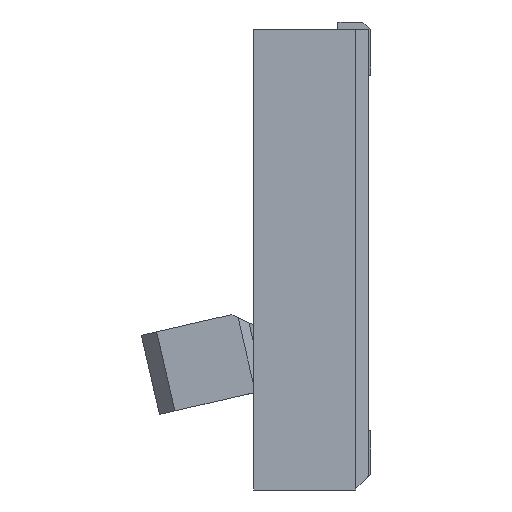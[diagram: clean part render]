
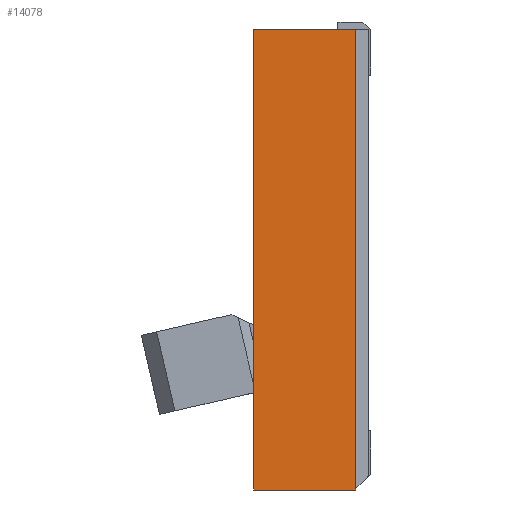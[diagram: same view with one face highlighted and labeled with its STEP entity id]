
A CAD part, left-side view. The second image highlights one B-rep face of the part: STEP entity #14078.
In plain terms, the highlighted planar face has unit normal (-1, 0, 0).
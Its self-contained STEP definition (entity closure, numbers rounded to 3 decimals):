
#51=DIRECTION('',(0.,-1.,0.));
#52=VECTOR('',#51,0.655);
#53=CARTESIAN_POINT('',(-3.,0.735,-1.475));
#54=LINE('',#53,#52);
#2291=DIRECTION('',(0.,-1.,0.));
#2292=VECTOR('',#2291,0.655);
#2293=CARTESIAN_POINT('',(-3.,0.735,1.475));
#2294=LINE('',#2293,#2292);
#3844=DIRECTION('',(0.,0.,1.));
#3845=VECTOR('',#3844,2.95);
#3846=CARTESIAN_POINT('',(-3.,0.735,-1.475));
#3847=LINE('',#3846,#3845);
#3852=DIRECTION('',(0.,0.,1.));
#3853=VECTOR('',#3852,2.95);
#3854=CARTESIAN_POINT('',(-3.,0.08,-1.475));
#3855=LINE('',#3854,#3853);
#7809=CARTESIAN_POINT('',(-3.,0.735,-1.475));
#7810=CARTESIAN_POINT('',(-3.,0.08,-1.475));
#7811=VERTEX_POINT('',#7809);
#7812=VERTEX_POINT('',#7810);
#7817=CARTESIAN_POINT('',(-3.,0.735,1.475));
#7818=CARTESIAN_POINT('',(-3.,0.08,1.475));
#7819=VERTEX_POINT('',#7817);
#7820=VERTEX_POINT('',#7818);
#14066=CARTESIAN_POINT('',(-3.,0.735,-1.475));
#14067=DIRECTION('',(-1.,0.,0.));
#14068=DIRECTION('',(0.,-1.,0.));
#14069=AXIS2_PLACEMENT_3D('',#14066,#14067,#14068);
#14070=PLANE('',#14069);
#14071=ORIENTED_EDGE('',*,*,#10345,.F.);
#14072=ORIENTED_EDGE('',*,*,#14015,.T.);
#14073=ORIENTED_EDGE('',*,*,#12383,.T.);
#14075=ORIENTED_EDGE('',*,*,#14074,.F.);
#14076=EDGE_LOOP('',(#14071,#14072,#14073,#14075));
#14077=FACE_OUTER_BOUND('',#14076,.F.);
#14078=ADVANCED_FACE('',(#14077),#14070,.T.);
#10345=EDGE_CURVE('',#7811,#7812,#54,.T.);
#12383=EDGE_CURVE('',#7819,#7820,#2294,.T.);
#14015=EDGE_CURVE('',#7811,#7819,#3847,.T.);
#14074=EDGE_CURVE('',#7812,#7820,#3855,.T.);
